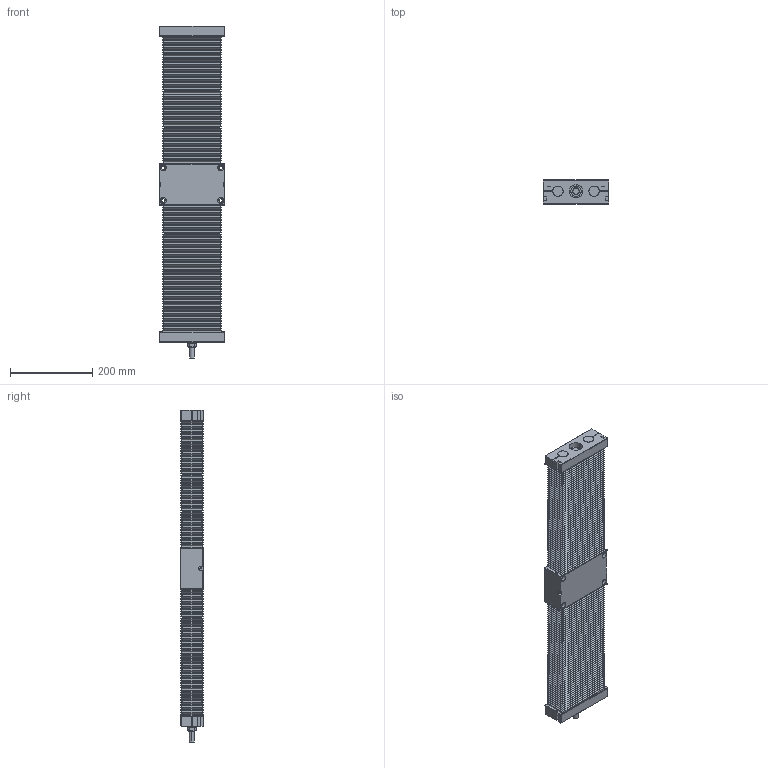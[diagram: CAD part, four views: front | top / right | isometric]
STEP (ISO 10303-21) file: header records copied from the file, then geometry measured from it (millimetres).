
FILE_DESCRIPTION (( 'STEP AP214' ), '1' );
FILE_NAME ('TKC2510B-400H0C-Ä£×é.step', '2025-10-11T05:41:15', ( '' ), ( '' ), 'SwSTEP 2.0', 'SolidWorks 2024', '' );
FILE_SCHEMA (( 'AUTOMOTIVE_DESIGN' ));
Length unit declared in the file: millimetre
Products named in the file (4): TKC25-02; TKC2510B-400H0C-模组; TKC25-400-01; TKC25-400-03
Assembly tree (4 placements, depth 2):
  TKC2510B-400H0C-模组
    TKC25-02
    TKC25-400-01
    TKC25-400-03  x2
Bounding box: 160 x 58 x 808 mm (x, y, z)
Volume: 4336214.3 mm3; surface area: 1066504 mm2
Topology: 14 solids, 14 shells, 2059 faces, 4547 edges, 2562 vertices
Faces by surface type: plane 1544, cylinder 432, cone 44, torus 28, bspline 11
Entity records: 67530 total; most frequent: CARTESIAN_POINT 36213, ORIENTED_EDGE 6430, DIRECTION 6129, EDGE_CURVE 3215, VECTOR 2265, LINE 2265, AXIS2_PLACEMENT_3D 1932, VERTEX_POINT 1902
